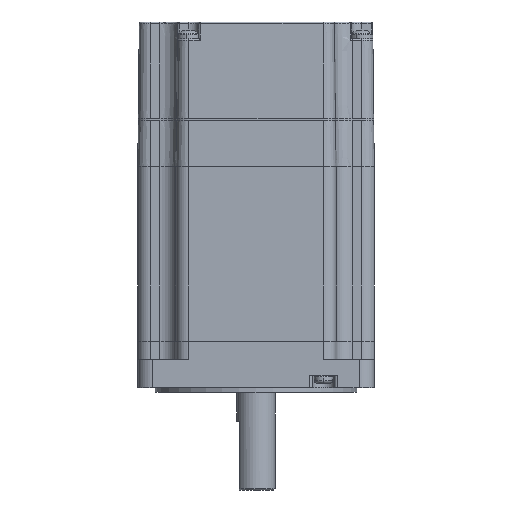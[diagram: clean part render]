
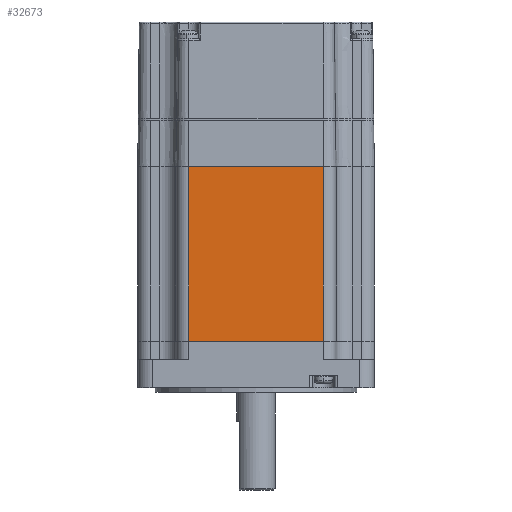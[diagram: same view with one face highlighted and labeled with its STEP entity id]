
A CAD part, front view. The second image highlights one B-rep face of the part: STEP entity #32673.
In plain terms, the highlighted planar face has unit normal (0, -1, 0).
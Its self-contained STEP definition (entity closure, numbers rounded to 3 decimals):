
#602 = VERTEX_POINT ( 'NONE', #65799 ) ;
#680 = CARTESIAN_POINT ( 'NONE',  ( -73.696, -16.368, -40.75 ) ) ;
#978 = VECTOR ( 'NONE', #14396, 1000. ) ;
#3257 = ORIENTED_EDGE ( 'NONE', *, *, #26229, .F. ) ;
#10801 = VECTOR ( 'NONE', #54077, 1000. ) ;
#14396 = DIRECTION ( 'NONE',  ( 1., 0., 0. ) ) ;
#15217 = DIRECTION ( 'NONE',  ( 0., 0., 1. ) ) ;
#15876 = LINE ( 'NONE', #34563, #69183 ) ;
#21290 = CARTESIAN_POINT ( 'NONE',  ( -73.696, -16.368, -40.75 ) ) ;
#26229 = EDGE_CURVE ( 'NONE', #26749, #68753, #15876, .T. ) ;
#26334 = FACE_OUTER_BOUND ( 'NONE', #49504, .T. ) ;
#26749 = VERTEX_POINT ( 'NONE', #44191 ) ;
#27943 = DIRECTION ( 'NONE',  ( 1., 0., 0. ) ) ;
#28330 = DIRECTION ( 'NONE',  ( 0., -1., 0. ) ) ;
#32673 = ADVANCED_FACE ( 'NONE', ( #26334 ), #68683, .T. ) ;
#33575 = EDGE_CURVE ( 'NONE', #602, #26749, #46120, .T. ) ;
#34563 = CARTESIAN_POINT ( 'NONE',  ( -73.696, -16.368, 22.5 ) ) ;
#36183 = EDGE_CURVE ( 'NONE', #602, #70779, #51801, .T. ) ;
#44191 = CARTESIAN_POINT ( 'NONE',  ( -73.696, -16.368, 22.5 ) ) ;
#46120 = LINE ( 'NONE', #71010, #62988 ) ;
#46620 = ORIENTED_EDGE ( 'NONE', *, *, #47471, .T. ) ;
#47174 = LINE ( 'NONE', #65125, #10801 ) ;
#47470 = ORIENTED_EDGE ( 'NONE', *, *, #33575, .F. ) ;
#47471 = EDGE_CURVE ( 'NONE', #70779, #68753, #47174, .T. ) ;
#49504 = EDGE_LOOP ( 'NONE', ( #3257, #47470, #54915, #46620 ) ) ;
#51801 = LINE ( 'NONE', #21290, #978 ) ;
#52866 = DIRECTION ( 'NONE',  ( 1., 0., 0. ) ) ;
#54077 = DIRECTION ( 'NONE',  ( 0., 0., 1. ) ) ;
#54915 = ORIENTED_EDGE ( 'NONE', *, *, #36183, .T. ) ;
#57809 = CARTESIAN_POINT ( 'NONE',  ( -24.796, -16.368, 22.5 ) ) ;
#60519 = CARTESIAN_POINT ( 'NONE',  ( -24.796, -16.368, -40.75 ) ) ;
#62988 = VECTOR ( 'NONE', #15217, 1000. ) ;
#65125 = CARTESIAN_POINT ( 'NONE',  ( -24.796, -16.368, -40.75 ) ) ;
#65799 = CARTESIAN_POINT ( 'NONE',  ( -73.696, -16.368, -40.75 ) ) ;
#68683 = PLANE ( 'NONE',  #71968 ) ;
#68753 = VERTEX_POINT ( 'NONE', #57809 ) ;
#69183 = VECTOR ( 'NONE', #52866, 1000. ) ;
#70779 = VERTEX_POINT ( 'NONE', #60519 ) ;
#71010 = CARTESIAN_POINT ( 'NONE',  ( -73.696, -16.368, -40.75 ) ) ;
#71968 = AXIS2_PLACEMENT_3D ( 'NONE', #680, #28330, #27943 ) ;
